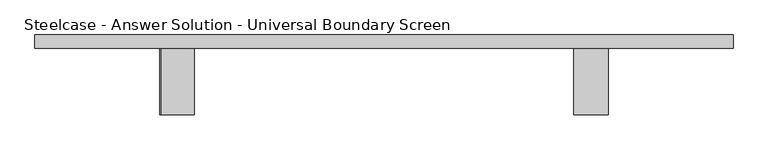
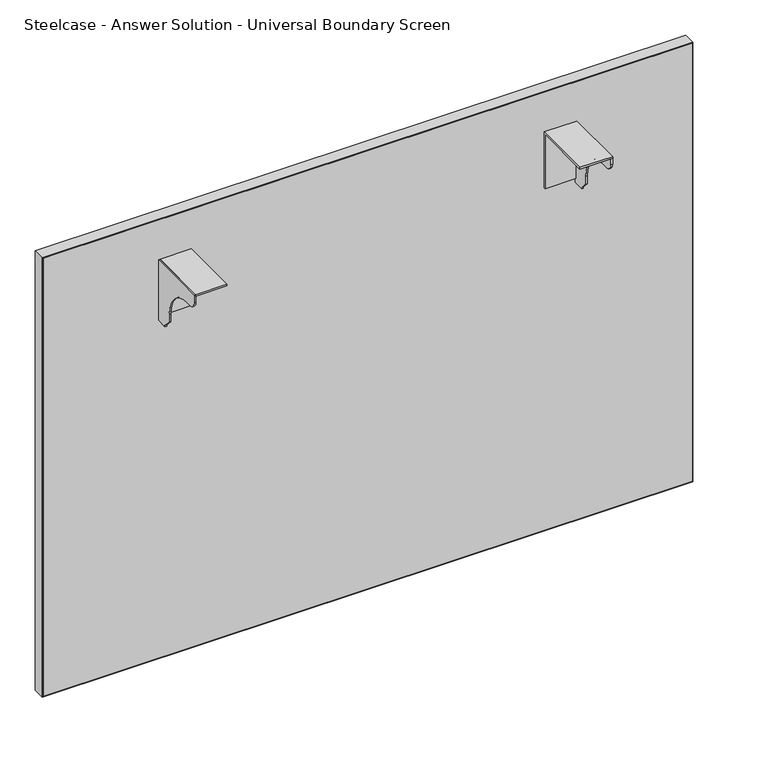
"""IFC4 building model written with IfcOpenShell, lengths in millimetres: furniture geometry, Steelcase - Answer Solution - Universal Boundary Screen : 30H x 42W."""

import ifcopenshell
import ifcopenshell.guid

model = None  # the IFC model being written
_history = None  # IfcOwnerHistory: only IFC2X3 demands one
_inside = {}  # id of a spatial element -> (the spatial element, [elements in it])
_under = {}  # id of a project, library or spatial element -> (it, [spatial elements below it])
_declared = {}  # id of a project -> (the project, [libraries it declares])
_typed = {}  # id of a type object -> (the type object, [elements of that type])
_made_of = {}  # id of a material, layer set ... -> (it, [elements and type objects made of it])


def new_model(schema):
    """Start an empty IFC model of exactly this schema.

    Asked for "IFC4X3", IfcOpenShell would pick the latest addendum, in which some entities
    have other attributes; the version numbers below select the first issue.
    IFC2X3 requires an IfcOwnerHistory on every rooted entity: one is made here for all.
    """
    global model, _history
    if schema == "IFC4X3":
        model = ifcopenshell.file(schema_version=(4, 3, 0, 0))
    else:
        model = ifcopenshell.file(schema=schema)
    _inside.clear()
    _under.clear()
    _declared.clear()
    _typed.clear()
    _made_of.clear()
    _history = None
    if model.schema == "IFC2X3":
        org = make("IfcOrganization", Name="unknown")
        user = make(
            "IfcPersonAndOrganization",
            ThePerson=make("IfcPerson", FamilyName="unknown"),
            TheOrganization=org,
        )
        app = make(
            "IfcApplication",
            ApplicationDeveloper=org,
            Version="unknown",
            ApplicationFullName="unknown",
            ApplicationIdentifier="unknown",
        )
        _history = make(
            "IfcOwnerHistory",
            OwningUser=user,
            OwningApplication=app,
            ChangeAction="ADDED",
            CreationDate=0,
        )
    return model


def make(cls, **values):
    """One entity of the class cls with the attributes given. An attribute that is None is left unset."""
    return model.create_entity(
        cls, **{name: value for name, value in values.items() if value is not None}
    )


def rooted(cls, **values):
    """An entity with a GlobalId (a new one), such as an element, a storey or a relation."""
    return make(cls, GlobalId=ifcopenshell.guid.new(), OwnerHistory=_history, **values)


def si_unit(unit_type, name, prefix=None):
    """IfcSIUnit, for example si_unit("LENGTHUNIT", "METRE", prefix="MILLI")."""
    return make("IfcSIUnit", UnitType=unit_type, Prefix=prefix, Name=name)


def assignment(units):
    """IfcUnitAssignment: the units of a project."""
    return None if units is None else make("IfcUnitAssignment", Units=units)


def point(xyz):
    """IfcCartesianPoint."""
    return None if xyz is None else make("IfcCartesianPoint", Coordinates=xyz)


def direction(xyz):
    """IfcDirection."""
    return None if xyz is None else make("IfcDirection", DirectionRatios=xyz)


def frame(location, z_axis=None, x_axis=None):
    """IfcAxis2Placement3D, a coordinate frame: its origin and axes. An axis left out is left unset."""
    return make(
        "IfcAxis2Placement3D",
        Location=point(location),
        Axis=direction(z_axis),
        RefDirection=direction(x_axis),
    )


def frame_2d(location, x_axis=None):
    """IfcAxis2Placement2D, a coordinate frame in the plane: its origin and x axis."""
    return make(
        "IfcAxis2Placement2D", Location=point(location), RefDirection=direction(x_axis)
    )


def origin():
    """The frame at (0, 0, 0) with its axes left unset."""
    return frame((0.0, 0.0, 0.0))


def place(relative_to, where):
    """IfcLocalPlacement: puts the frame where relative to a parent placement (None: the world)."""
    return make(
        "IfcLocalPlacement", PlacementRelTo=relative_to, RelativePlacement=where
    )


def context(
    kind, dimensions, precision=None, world=None, true_north=None, identifier=None
):
    """IfcGeometricRepresentationContext, for example the 3D "Model" context."""
    return make(
        "IfcGeometricRepresentationContext",
        ContextIdentifier=identifier,
        ContextType=kind,
        CoordinateSpaceDimension=dimensions,
        Precision=precision,
        WorldCoordinateSystem=world,
        TrueNorth=true_north,
    )


def project(units=None, contexts=None):
    """IfcProject with its units and contexts."""
    return rooted(
        "IfcProject",
        Name="project",
        RepresentationContexts=contexts,
        UnitsInContext=assignment(units),
    )


def spatial(cls, under=None, at=None, **own):
    """A site, building, storey or space (cls), placed at a placement, below another one or the project."""
    s = rooted(cls, ObjectPlacement=at, **own)
    if under is not None:
        _under.setdefault(under.id(), (under, []))[1].append(s)
    return s


def polyline(points):
    """IfcPolyline through the points."""
    return make("IfcPolyline", Points=[point(p) for p in points])


def circle_curve(where, radius):
    """IfcCircle in the frame where."""
    return make("IfcCircle", Position=where, Radius=radius)


def trimmed(basis, trim1, trim2, sense, master):
    """IfcTrimmedCurve: the piece of a basis curve between two trims."""
    return make(
        "IfcTrimmedCurve",
        BasisCurve=basis,
        Trim1=trim1,
        Trim2=trim2,
        SenseAgreement=sense,
        MasterRepresentation=master,
    )


def segment(curve, same_sense, transition):
    """IfcCompositeCurveSegment."""
    return make(
        "IfcCompositeCurveSegment",
        Transition=transition,
        SameSense=same_sense,
        ParentCurve=curve,
    )


def composite_curve(segments, self_intersect=None):
    """IfcCompositeCurve: segments joined end to end."""
    return make("IfcCompositeCurve", Segments=segments, SelfIntersect=self_intersect)


def outline(outer, holes=None, kind="AREA"):
    """IfcArbitraryClosedProfileDef: a profile drawn as a closed curve; with holes, ...WithVoids."""
    if holes is None:
        return make("IfcArbitraryClosedProfileDef", ProfileType=kind, OuterCurve=outer)
    return make(
        "IfcArbitraryProfileDefWithVoids",
        ProfileType=kind,
        OuterCurve=outer,
        InnerCurves=holes,
    )


def extrude(swept, where, along, depth):
    """IfcExtrudedAreaSolid: the profile swept, set in the frame where, extruded along a direction by depth."""
    return make(
        "IfcExtrudedAreaSolid",
        SweptArea=swept,
        Position=where,
        ExtrudedDirection=direction(along),
        Depth=depth,
    )


def shape(context_of_items, identifier, shape_type, items):
    """IfcShapeRepresentation: the items that make up one representation, for example the "Body"."""
    return make(
        "IfcShapeRepresentation",
        ContextOfItems=context_of_items,
        RepresentationIdentifier=identifier,
        RepresentationType=shape_type,
        Items=items,
    )


def source(mapping_origin, context_of_items, identifier, shape_type, items):
    """IfcRepresentationMap: a shape defined once, which mapped items show again and again."""
    return make(
        "IfcRepresentationMap",
        MappingOrigin=mapping_origin,
        MappedRepresentation=shape(context_of_items, identifier, shape_type, items),
    )


def transform(
    local_origin,
    x_axis=None,
    y_axis=None,
    z_axis=None,
    scale=None,
    scale2=None,
    scale3=None,
    uniform=True,
):
    """IfcCartesianTransformationOperator3D, or its non-uniform kind. x_axis, y_axis, z_axis: its Axis1, 2, 3."""
    if uniform:
        return make(
            "IfcCartesianTransformationOperator3D",
            Axis1=direction(x_axis),
            Axis2=direction(y_axis),
            LocalOrigin=point(local_origin),
            Scale=scale,
            Axis3=direction(z_axis),
        )
    return make(
        "IfcCartesianTransformationOperator3DnonUniform",
        Axis1=direction(x_axis),
        Axis2=direction(y_axis),
        LocalOrigin=point(local_origin),
        Scale=scale,
        Axis3=direction(z_axis),
        Scale2=scale2,
        Scale3=scale3,
    )


def mapped(mapping_source, mapping_target):
    """IfcMappedItem: shows the shape of a source again, moved by a transform."""
    return make(
        "IfcMappedItem", MappingSource=mapping_source, MappingTarget=mapping_target
    )


def made_of(thing, what):
    """Note that an element or type object is made of a material, layer set ...; save() writes the relation."""
    if what is not None:
        _made_of.setdefault(what.id(), (what, []))[1].append(thing)
    return thing


def element(
    cls,
    number,
    at=None,
    inside=None,
    cuts=None,
    type_object=None,
    material=None,
    context=None,
    identifier="Body",
    shape_type=None,
    held_by="IfcProductDefinitionShape",
    body=None,
    shapes=None,
    **own,
):
    """One element of the class cls, such as IfcWall. Its Tag is "e" and its number.

    at: its placement. inside: the storey or other place that contains it. cuts: it is an
    opening in that element (IfcRelVoidsElement). A single representation is given by context,
    identifier, shape_type and body (its items); several are given by shapes. held_by: the class
    of the entity that holds the representations. save() writes the other relations.
    """
    e = rooted(cls, Tag="e%d" % number, ObjectPlacement=at, **own)
    if body is not None:
        shapes = [shape(context, identifier, shape_type, body)]
    if shapes is not None:
        e.Representation = make(held_by, Representations=shapes)
    if inside is not None:
        _inside.setdefault(inside.id(), (inside, []))[1].append(e)
    if cuts is not None:
        rooted(
            "IfcRelVoidsElement", RelatingBuildingElement=cuts, RelatedOpeningElement=e
        )
    if type_object is not None:
        _typed.setdefault(type_object.id(), (type_object, []))[1].append(e)
    return made_of(e, material)


def aggregate(whole, parts):
    """IfcRelAggregates: a whole, such as a stair, and the parts it consists of."""
    return rooted("IfcRelAggregates", RelatingObject=whole, RelatedObjects=parts)


def save(model, path):
    """Write the relations noted so far, then the file.

    IfcRelAggregates (storeys below a building ...), IfcRelContainedInSpatialStructure (elements
    in a storey), IfcRelDefinesByType, IfcRelAssociatesMaterial and IfcRelDeclares: one each for
    every whole, place, type object, material and project.
    """
    for whole, parts in _under.values():
        aggregate(whole, parts)
    for where, things in _inside.values():
        rooted(
            "IfcRelContainedInSpatialStructure",
            RelatedElements=things,
            RelatingStructure=where,
        )
    for kind, things in _typed.values():
        rooted("IfcRelDefinesByType", RelatedObjects=things, RelatingType=kind)
    for what, things in _made_of.values():
        rooted("IfcRelAssociatesMaterial", RelatedObjects=things, RelatingMaterial=what)
    for by, libraries in _declared.values():
        rooted("IfcRelDeclares", RelatingContext=by, RelatedDefinitions=libraries)
    model.write(path)


def steelcase_answer_solution_universal_boundary_screen_9bc7f7ea(model_context):
    return source(origin(), model_context, "Body", "SweptSolid", [
        extrude(outline(polyline([(-103.1670434, 689.3558876), (-103.1670434, 692.1499758), (-1.5668826, 692.1499758), (-1.5668826, 595.5029317), (-4.1079736, 595.5029317), (-4.1079736, 689.3558876), (-103.1670434, 689.3558876)])), frame((819.6336711, 0.0, 0.0), z_axis=(1.0, 0.0, 0.0), x_axis=(0.0, 1.0, 0.0)), (0.0, 0.0, 1.0), 53.3444116),
        extrude(outline(composite_curve([segment(polyline([(-103.1670434, 679.2814802), (-103.1670434, 692.1499758), (-1.5668826, 692.1499758), (-1.5668826, 586.9634093), (-19.8232934, 586.9634093), (-19.8232934, 589.7574248), (-32.0458032, 601.9799346), (-32.0458032, 615.7814802)]), True, "CONTINUOUS"), segment(trimmed(circle_curve(frame_2d((-82.8458032, 615.7814802)), 50.8), [point((-32.0458032, 615.7814802))], [point((-82.8458032, 666.5814802))], True, "CARTESIAN"), True, "CONTINUOUS"), segment(polyline([(-82.8458032, 666.5814802), (-90.4670434, 666.5814802)]), True, "CONTINUOUS"), segment(trimmed(circle_curve(frame_2d((-90.4670434, 679.2814802)), 12.7), [point((-90.4670434, 666.5814802))], [point((-103.1670434, 679.2814802))], False, "CARTESIAN"), True, "CONTINUOUS")], self_intersect=False)), frame((870.4328959, 0.0, 0.0), z_axis=(1.0, 0.0, 0.0), x_axis=(0.0, 1.0, 0.0)), (0.0, 0.0, 1.0), 2.5451868),
        extrude(outline(polyline([(-103.1670434, 689.3558876), (-103.1670434, 692.1499758), (-1.5668826, 692.1499758), (-1.5668826, 595.5029317), (-4.1079736, 595.5029317), (-4.1079736, 689.3558876), (-103.1670434, 689.3558876)])), frame((189.7232694, 0.0, 0.0), z_axis=(1.0, 0.0, 0.0), x_axis=(0.0, 1.0, 0.0)), (0.0, 0.0, 1.0), 50.7992249),
        extrude(outline(composite_curve([segment(polyline([(-103.1670434, 679.2814802), (-103.1670434, 692.1499758), (-1.5668826, 692.1499758), (-1.5668826, 586.9634093), (-19.8232934, 586.9634093), (-19.8232934, 589.7574248), (-32.0458032, 601.9799346), (-32.0458032, 615.7814802)]), True, "CONTINUOUS"), segment(trimmed(circle_curve(frame_2d((-82.8458032, 615.7814802)), 50.8), [point((-32.0458032, 615.7814802))], [point((-82.8458032, 666.5814802))], True, "CARTESIAN"), True, "CONTINUOUS"), segment(polyline([(-82.8458032, 666.5814802), (-90.4670434, 666.5814802)]), True, "CONTINUOUS"), segment(trimmed(circle_curve(frame_2d((-90.4670434, 679.2814802)), 12.7), [point((-90.4670434, 666.5814802))], [point((-103.1670434, 679.2814802))], False, "CARTESIAN"), True, "CONTINUOUS")], self_intersect=False)), frame((187.1780827, 0.0, 0.0), z_axis=(1.0, 0.0, 0.0), x_axis=(0.0, 1.0, 0.0)), (0.0, 0.0, 1.0), 2.5451868),
        extrude(outline(polyline([(-2.3293422, 18.9055112), (1062.4855076, 18.9055112), (1062.4855076, -1.5668826), (-2.3293422, -1.5668826), (-2.3293422, 18.9055112)])), frame((0.0, 0.0, 1.016), z_axis=(0.0, 0.0, 1.0), x_axis=(1.0, 0.0, 0.0)), (0.0, 0.0, 1.0), 759.9914249),
        extrude(outline(polyline([(762.0, 1063.4780827), (762.0, -3.3219173), (0.0, -3.3219173), (0.0, 1063.4780827), (762.0, 1063.4780827)]), holes=[polyline([(761.0074249, 1062.4855076), (1.016, 1062.4855076), (1.016, -2.3293422), (761.0074249, -2.3293422), (761.0074249, 1062.4855076)])]), frame((0.0, -1.5668826, 0.0), z_axis=(0.0, 1.0, 0.0), x_axis=(0.0, 0.0, 1.0)), (0.0, 0.0, 1.0), 20.4723938),
    ])


if __name__ == "__main__":
    model = new_model("IFC4")
    model_context = context("Model", 3, world=origin())
    ifc_project = project(units=[si_unit("LENGTHUNIT", "METRE", prefix="MILLI")], contexts=[model_context])
    site = spatial("IfcSite", under=ifc_project)
    building = spatial("IfcBuilding", under=site)
    placement = place(None, origin())
    steelcase_answer_solution_universal_boundary_screen_shape = steelcase_answer_solution_universal_boundary_screen_9bc7f7ea(model_context)
    element("IfcFurniture", 1, ObjectType="Steelcase - Answer Solution - Universal Boundary Screen : 30H x 42W", at=placement, inside=building, context=model_context, shape_type="MappedRepresentation", body=[
        mapped(steelcase_answer_solution_universal_boundary_screen_shape, transform((0.0, 0.0, 0.0), x_axis=(1.0, 0.0, 0.0), y_axis=(0.0, 1.0, 0.0), z_axis=(0.0, 0.0, 1.0))),
    ])
    save(model, "model.ifc")
